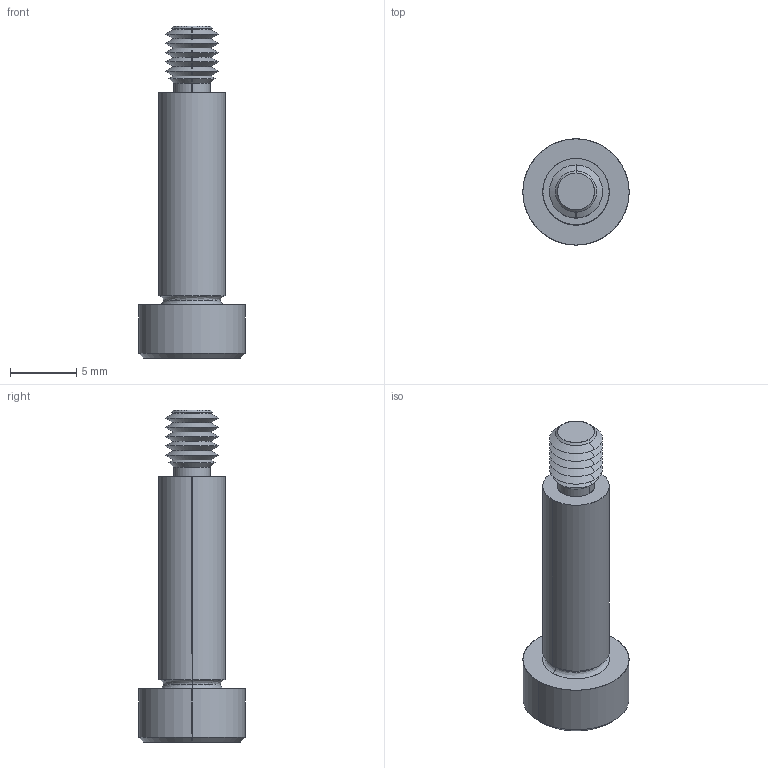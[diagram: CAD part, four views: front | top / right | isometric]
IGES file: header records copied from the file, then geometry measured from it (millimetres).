
Start section: SolidWorks IGES file using analytic representation for surfaces
Global section: file name: C:\Users\IanO\Documents\Temp Folder\GENERAL\SCREW REVISION\P0130_v2\P0130.T5_v2_20220106_IGES\P0130.050-016-T5.igs; native system: SolidWorks 2019; preprocessor: SolidWorks 2019; author: IanO; date: 220106.221556; units: millimetre
Bounding box: 8 x 8 x 25 mm (x, y, z)
Surface area: 567.3 mm2 (no closed solid volume)
Topology: 0 solids, 0 shells, 64 faces, 504 edges, 502 vertices
Faces by surface type: revolution 44, bspline 20
